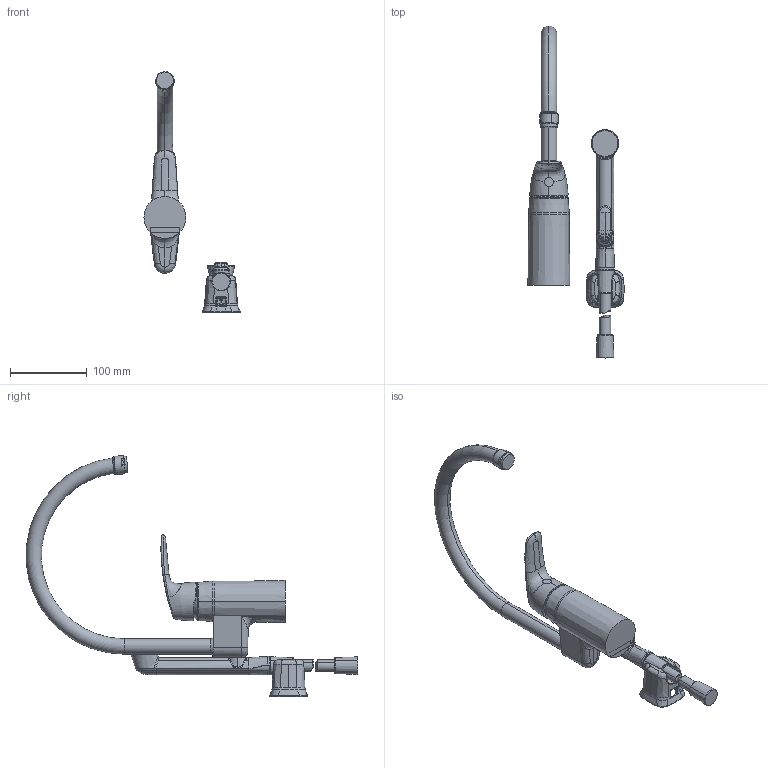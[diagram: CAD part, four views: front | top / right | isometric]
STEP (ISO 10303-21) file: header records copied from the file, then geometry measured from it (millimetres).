
FILE_DESCRIPTION (( 'STEP AP203' ), '1' );
FILE_NAME ('1033(2023).STEP', '2023-09-20T07:05:28', ( '' ), ( '' ), 'SwSTEP 2.0', 'SolidWorks 2016', '' );
FILE_SCHEMA (( 'CONFIG_CONTROL_DESIGN' ));
Length unit declared in the file: millimetre
Products named in the file (1): 1033(2023)
Bounding box: 124.95 x 431.3 x 313.27 mm (x, y, z)
Volume: 750111.7 mm3; surface area: 134640.7 mm2
Topology: 15 solids, 15 shells, 1111 faces, 2658 edges, 1580 vertices
Faces by surface type: bspline 698, plane 166, cylinder 119, cone 104, torus 24
Entity records: 108790 total; most frequent: CARTESIAN_POINT 88971, ORIENTED_EDGE 5280, EDGE_CURVE 2640, DIRECTION 2434, VERTEX_POINT 1580, B_SPLINE_CURVE_WITH_KNOTS 1393, EDGE_LOOP 1134, ADVANCED_FACE 1111
